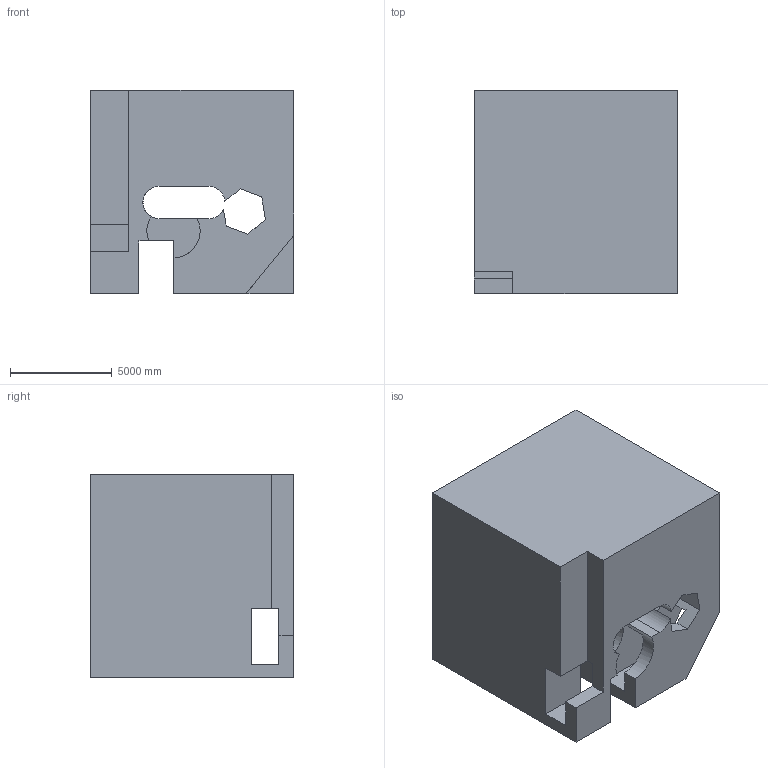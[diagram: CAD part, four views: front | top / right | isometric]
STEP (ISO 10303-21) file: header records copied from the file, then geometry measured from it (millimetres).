
FILE_DESCRIPTION (( 'STEP AP203' ), '1' );
FILE_NAME ('654.STEP', '2022-07-29T12:19:51', ( 'user' ), ( '' ), 'SwSTEP 2.0', 'SolidWorks 2021', '' );
FILE_SCHEMA (( 'CONFIG_CONTROL_DESIGN' ));
Length unit declared in the file: centimetre
Products named in the file (1): 654
Bounding box: 10000 x 10000 x 10000 mm (x, y, z)
Volume: 782101750249.8 mm3; surface area: 802242539.8 mm2
Topology: 1 solids, 1 shells, 40 faces, 135 edges, 90 vertices
Faces by surface type: plane 35, cylinder 5
Entity records: 1547 total; most frequent: ORIENTED_EDGE 270, CARTESIAN_POINT 266, DIRECTION 232, EDGE_CURVE 135, VECTOR 120, LINE 120, VERTEX_POINT 90, AXIS2_PLACEMENT_3D 56
